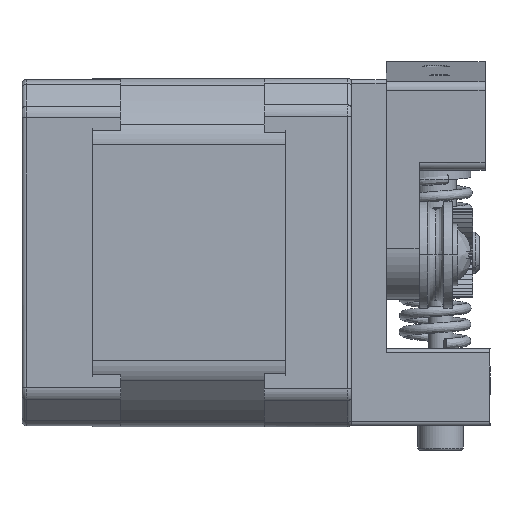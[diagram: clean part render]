
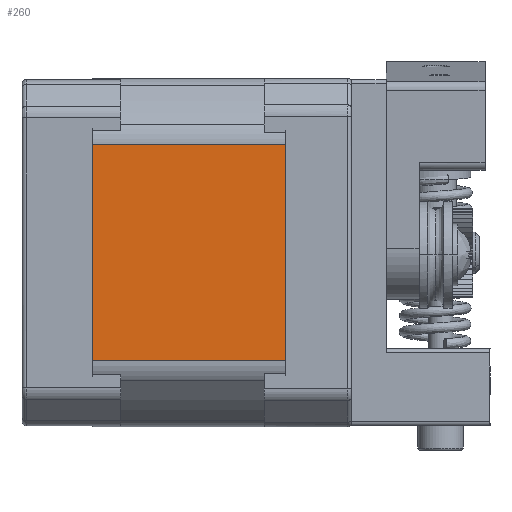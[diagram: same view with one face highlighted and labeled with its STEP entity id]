
A CAD part, left-side view. The second image highlights one B-rep face of the part: STEP entity #260.
In plain terms, the highlighted planar face has unit normal (-1, 0, 0) as drawn and (0, 0, -1) by its records, which use the part's own axes.
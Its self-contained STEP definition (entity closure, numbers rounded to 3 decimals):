
#260=ADVANCED_FACE('',(#899),#9740,.T.);
#899=FACE_OUTER_BOUND('',#1548,.T.);
#1548=EDGE_LOOP('',(#2323,#2324,#2325,#2326));
#2323=ORIENTED_EDGE('',*,*,#5509,.F.);
#2324=ORIENTED_EDGE('',*,*,#5502,.F.);
#2325=ORIENTED_EDGE('',*,*,#5510,.F.);
#2326=ORIENTED_EDGE('',*,*,#5504,.T.);
#5502=EDGE_CURVE('',#8745,#8746,#7108,.T.);
#5504=EDGE_CURVE('',#8752,#8751,#7110,.T.);
#5509=EDGE_CURVE('',#8746,#8751,#7113,.T.);
#5510=EDGE_CURVE('',#8752,#8745,#7114,.T.);
#7108=B_SPLINE_CURVE_WITH_KNOTS('',1,(#12152,#12153),.UNSPECIFIED.,.F.,
 .F.,(2,2),(0.,26.263),.UNSPECIFIED.);
#7110=B_SPLINE_CURVE_WITH_KNOTS('',1,(#12156,#12157),.UNSPECIFIED.,.F.,
 .F.,(2,2),(0.,26.263),.UNSPECIFIED.);
#7113=B_SPLINE_CURVE_WITH_KNOTS('',1,(#12168,#12169),.UNSPECIFIED.,.F.,
 .F.,(2,2),(-23.5,0.),.UNSPECIFIED.);
#7114=B_SPLINE_CURVE_WITH_KNOTS('',1,(#12170,#12171),.UNSPECIFIED.,.F.,
 .F.,(2,2),(-23.5,0.),.UNSPECIFIED.);
#8745=VERTEX_POINT('',#12058);
#8746=VERTEX_POINT('',#12059);
#8751=VERTEX_POINT('',#12064);
#8752=VERTEX_POINT('',#12065);
#9740=PLANE('',#10764);
#10764=AXIS2_PLACEMENT_3D('',#11732,#11169,$);
#11169=DIRECTION('',(0.,0.,-1.));
#11732=CARTESIAN_POINT('',(-15.759,-2.351,-21.15));
#12058=CARTESIAN_POINT('',(13.132,23.5,-21.15));
#12059=CARTESIAN_POINT('',(-13.132,23.5,-21.15));
#12064=CARTESIAN_POINT('',(-13.132,0.,-21.15));
#12065=CARTESIAN_POINT('',(13.132,0.,-21.15));
#12152=CARTESIAN_POINT('',(13.132,23.5,-21.15));
#12153=CARTESIAN_POINT('',(-13.132,23.5,-21.15));
#12156=CARTESIAN_POINT('',(13.132,0.,-21.15));
#12157=CARTESIAN_POINT('',(-13.132,0.,-21.15));
#12168=CARTESIAN_POINT('',(-13.132,23.5,-21.15));
#12169=CARTESIAN_POINT('',(-13.132,0.,-21.15));
#12170=CARTESIAN_POINT('',(13.132,0.,-21.15));
#12171=CARTESIAN_POINT('',(13.132,23.5,-21.15));
